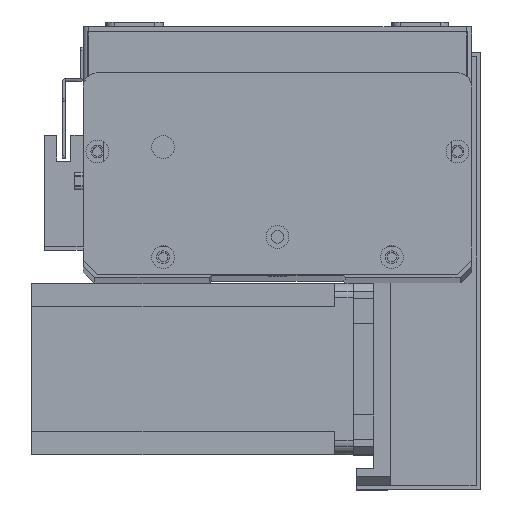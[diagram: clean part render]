
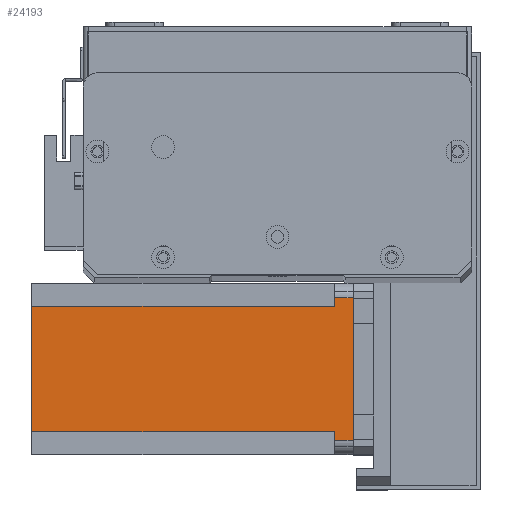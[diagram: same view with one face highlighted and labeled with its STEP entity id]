
A CAD part, top view. The second image highlights one B-rep face of the part: STEP entity #24193.
In plain terms, the highlighted planar face has unit normal (0, 0, 1) as drawn and (0, -1, 0) by its records, which use the part's own axes.
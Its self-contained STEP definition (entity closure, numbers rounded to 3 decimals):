
#708 = CARTESIAN_POINT ( 'NONE',  ( 0., 0., 0. ) ) ;
#1481 = DIRECTION ( 'NONE',  ( 0., -1., 0. ) ) ;
#1504 = FACE_OUTER_BOUND ( 'NONE', #28252, .T. ) ;
#1665 = VECTOR ( 'NONE', #28041, 1000. ) ;
#2217 = LINE ( 'NONE', #12683, #6789 ) ;
#2962 = EDGE_CURVE ( 'NONE', #13065, #25534, #24686, .T. ) ;
#3183 = ORIENTED_EDGE ( 'NONE', *, *, #17248, .F. ) ;
#4014 = DIRECTION ( 'NONE',  ( 1., 0., 0. ) ) ;
#4156 = VERTEX_POINT ( 'NONE', #20564 ) ;
#4727 = LINE ( 'NONE', #19497, #27980 ) ;
#4942 = CARTESIAN_POINT ( 'NONE',  ( 55., 0., -6.5 ) ) ;
#5369 = VECTOR ( 'NONE', #26381, 1000. ) ;
#6005 = ORIENTED_EDGE ( 'NONE', *, *, #24292, .T. ) ;
#6421 = EDGE_CURVE ( 'NONE', #27784, #14683, #19615, .T. ) ;
#6697 = ORIENTED_EDGE ( 'NONE', *, *, #24282, .T. ) ;
#6789 = VECTOR ( 'NONE', #28416, 1000. ) ;
#7420 = VERTEX_POINT ( 'NONE', #21650 ) ;
#8993 = CARTESIAN_POINT ( 'NONE',  ( 52., 0., -112.5 ) ) ;
#9085 = EDGE_CURVE ( 'NONE', #4156, #7420, #18398, .T. ) ;
#9123 = ORIENTED_EDGE ( 'NONE', *, *, #28460, .F. ) ;
#9612 = VERTEX_POINT ( 'NONE', #17401 ) ;
#9639 = EDGE_CURVE ( 'NONE', #27784, #12913, #23691, .T. ) ;
#10643 = AXIS2_PLACEMENT_3D ( 'NONE', #14970, #1481, #17224 ) ;
#11728 = VECTOR ( 'NONE', #4014, 1000. ) ;
#12464 = VECTOR ( 'NONE', #16436, 1000. ) ;
#12683 = CARTESIAN_POINT ( 'NONE',  ( 8., 0., -6.5 ) ) ;
#12913 = VERTEX_POINT ( 'NONE', #8993 ) ;
#13005 = CARTESIAN_POINT ( 'NONE',  ( 5., 0., -112.5 ) ) ;
#13065 = VERTEX_POINT ( 'NONE', #18527 ) ;
#14683 = VERTEX_POINT ( 'NONE', #17402 ) ;
#14970 = CARTESIAN_POINT ( 'NONE',  ( 0., 0., -112.5 ) ) ;
#15260 = DIRECTION ( 'NONE',  ( 0., 0., -1. ) ) ;
#15574 = DIRECTION ( 'NONE',  ( 1., 0., 0. ) ) ;
#16436 = DIRECTION ( 'NONE',  ( 1., 0., 0. ) ) ;
#17224 = DIRECTION ( 'NONE',  ( 0., 0., -1. ) ) ;
#17248 = EDGE_CURVE ( 'NONE', #13065, #12913, #4727, .T. ) ;
#17350 = VECTOR ( 'NONE', #15260, 1000. ) ;
#17401 = CARTESIAN_POINT ( 'NONE',  ( 5., 0., -6.5 ) ) ;
#17402 = CARTESIAN_POINT ( 'NONE',  ( 8., 0., -6.5 ) ) ;
#17496 = CARTESIAN_POINT ( 'NONE',  ( 55., 0., -112.5 ) ) ;
#18163 = CARTESIAN_POINT ( 'NONE',  ( 8., 0., -112.5 ) ) ;
#18398 = LINE ( 'NONE', #708, #12464 ) ;
#18527 = CARTESIAN_POINT ( 'NONE',  ( 52., 0., -6.5 ) ) ;
#18666 = VECTOR ( 'NONE', #15574, 1000. ) ;
#18892 = ORIENTED_EDGE ( 'NONE', *, *, #6421, .F. ) ;
#19497 = CARTESIAN_POINT ( 'NONE',  ( 52., 0., -112.5 ) ) ;
#19615 = LINE ( 'NONE', #25719, #1665 ) ;
#19752 = CARTESIAN_POINT ( 'NONE',  ( 0., 0., -112.5 ) ) ;
#20431 = ORIENTED_EDGE ( 'NONE', *, *, #9085, .F. ) ;
#20564 = CARTESIAN_POINT ( 'NONE',  ( 5., 0., 0. ) ) ;
#21143 = ORIENTED_EDGE ( 'NONE', *, *, #9639, .T. ) ;
#21146 = ORIENTED_EDGE ( 'NONE', *, *, #2962, .T. ) ;
#21650 = CARTESIAN_POINT ( 'NONE',  ( 55., 0., 0. ) ) ;
#23691 = LINE ( 'NONE', #19752, #11728 ) ;
#24042 = LINE ( 'NONE', #17496, #5369 ) ;
#24193 = ADVANCED_FACE ( 'NONE', ( #1504 ), #26195, .T. ) ;
#24282 = EDGE_CURVE ( 'NONE', #4156, #9612, #24759, .T. ) ;
#24292 = EDGE_CURVE ( 'NONE', #25534, #7420, #24042, .T. ) ;
#24686 = LINE ( 'NONE', #29074, #18666 ) ;
#24759 = LINE ( 'NONE', #13005, #17350 ) ;
#25534 = VERTEX_POINT ( 'NONE', #4942 ) ;
#25719 = CARTESIAN_POINT ( 'NONE',  ( 8., 0., -112.5 ) ) ;
#26195 = PLANE ( 'NONE',  #10643 ) ;
#26381 = DIRECTION ( 'NONE',  ( 0., 0., 1. ) ) ;
#27784 = VERTEX_POINT ( 'NONE', #18163 ) ;
#27980 = VECTOR ( 'NONE', #28587, 1000. ) ;
#28041 = DIRECTION ( 'NONE',  ( 0., 0., 1. ) ) ;
#28252 = EDGE_LOOP ( 'NONE', ( #21146, #6005, #20431, #6697, #9123, #18892, #21143, #3183 ) ) ;
#28416 = DIRECTION ( 'NONE',  ( -1., 0., 0. ) ) ;
#28460 = EDGE_CURVE ( 'NONE', #14683, #9612, #2217, .T. ) ;
#28587 = DIRECTION ( 'NONE',  ( 0., 0., -1. ) ) ;
#29074 = CARTESIAN_POINT ( 'NONE',  ( 52., 0., -6.5 ) ) ;
